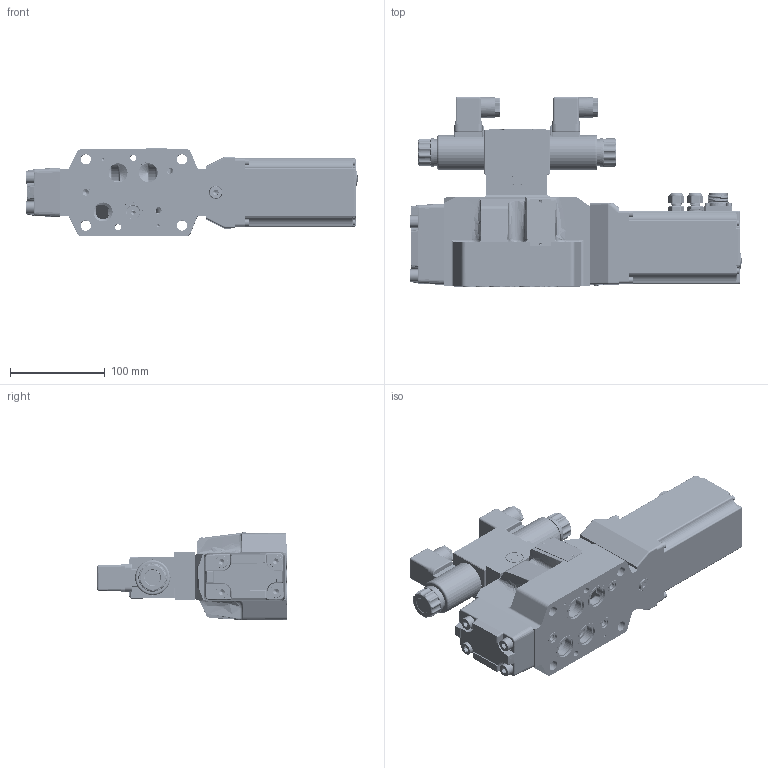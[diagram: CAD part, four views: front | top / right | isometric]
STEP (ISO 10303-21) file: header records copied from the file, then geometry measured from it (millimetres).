
FILE_DESCRIPTION(/* description */ (''),/* implementation_level */ '2;1');
FILE_NAME(/* name */ '4WRKE16.stp',/* time_stamp */ '2023-11-23T15:23:59+08:00',/* author */ (''),/* organization */ (''),/* preprocessor_version */ 'ST-DEVELOPER v16.7',/* originating_system */ 'SIEMENS PLM Software NX 12.0',/* authorisation */ '');
FILE_SCHEMA (('AUTOMOTIVE_DESIGN { 1 0 10303 214 3 1 1 1 }'));
Products named in the file (1): 4WRKE16
Bounding box: 349.78 x 200.71 x 93.03 mm (x, y, z)
Volume: 1596033.6 mm3; surface area: 429849.2 mm2
Topology: 70 solids, 78 shells, 4525 faces, 11873 edges, 7634 vertices
Faces by surface type: plane 1858, cylinder 1174, extrusion 633, torus 245, cone 230, bspline 196, sphere 134, revolution 55
Full cylindrical faces by diameter (mm): 0.6 x1, 1 x2, 1.2 x1, 1.5 x11, 1.8 x6, 2 x14, 2.5 x20, 3 x9, 3.2 x56, 3.3 x4, 3.5 x4, 4 x4, 4.2 x4, 4.5 x1, 4.7 x2, 5 x27, 5.3 x4, 5.4 x6, 5.5 x2, 5.6 x4, 6 x12, 6.5 x2, 6.6 x3, 6.8 x12, 7 x7, 7.4 x3, 8 x17, 8.5 x4, 8.6 x8, 9 x2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
Entity records: 239244 total; most frequent: CARTESIAN_POINT 111607, ORIENTED_EDGE 20450, DIRECTION 18057, EDGE_CURVE 10225, VERTEX_POINT 6877, AXIS2_PLACEMENT_3D 6227, VECTOR 5548, EDGE_LOOP 5456
